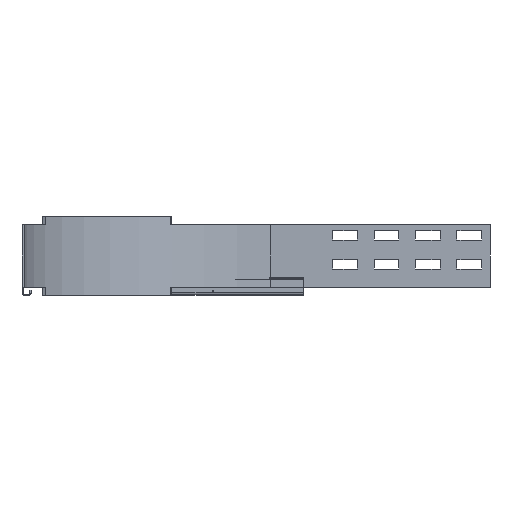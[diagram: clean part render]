
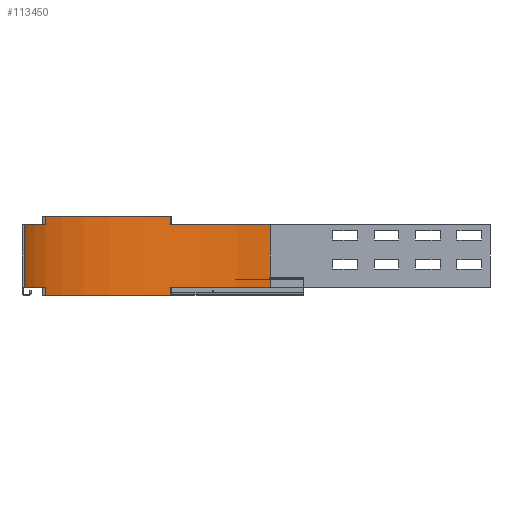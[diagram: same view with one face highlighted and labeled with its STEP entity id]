
A CAD part, left-side view. The second image highlights one B-rep face of the part: STEP entity #113450.
In plain terms, the highlighted cylindrical face has radius 297 mm (diameter 594 mm), a partial arc.
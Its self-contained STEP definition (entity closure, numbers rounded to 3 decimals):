
#90880=CARTESIAN_POINT('',(423.54,-135.435,-50.));
#90890=VERTEX_POINT('',#90880);
#90920=CARTESIAN_POINT('',(247.84,-374.89,-50.));
#90930=DIRECTION('',(0.,0.,1.));
#90940=DIRECTION('',(0.592,0.806,0.));
#90950=AXIS2_PLACEMENT_3D('',#90920,#90930,#90940);
#90960=CIRCLE('',#90950,297.);
#90970=CARTESIAN_POINT('',(214.908,-79.722,-50.));
#90980=VERTEX_POINT('',#90970);
#90990=EDGE_CURVE('',#90890,#90980,#90960,.T.);
#92960=CARTESIAN_POINT('',(504.924,-226.173,-60.));
#92970=VERTEX_POINT('',#92960);
#93020=CARTESIAN_POINT('',(247.84,-374.89,-60.));
#93030=DIRECTION('',(0.,0.,-1.));
#93040=DIRECTION('',(0.592,0.806,0.));
#93050=AXIS2_PLACEMENT_3D('',#93020,#93030,#93040);
#93060=CIRCLE('',#93050,297.);
#93070=CARTESIAN_POINT('',(423.54,-135.435,-60.));
#93080=VERTEX_POINT('',#93070);
#93090=EDGE_CURVE('',#93080,#92970,#93060,.T.);
#93500=CARTESIAN_POINT('',(247.84,-374.89,-145.));
#93510=DIRECTION('',(0.,0.,1.));
#93520=DIRECTION('',(0.592,0.806,0.));
#93530=AXIS2_PLACEMENT_3D('',#93500,#93510,#93520);
#93540=CIRCLE('',#93530,297.);
#93550=CARTESIAN_POINT('',(423.54,-135.435,-145.));
#93560=VERTEX_POINT('',#93550);
#93570=CARTESIAN_POINT('',(214.908,-79.722,-145.));
#93580=VERTEX_POINT('',#93570);
#93590=EDGE_CURVE('',#93560,#93580,#93540,.T.);
#94140=CARTESIAN_POINT('',(99.123,-117.806,-135.));
#94150=VERTEX_POINT('',#94140);
#94180=CARTESIAN_POINT('',(247.84,-374.89,-135.));
#94190=DIRECTION('',(0.,0.,1.));
#94200=DIRECTION('',(-0.111,0.994,0.));
#94210=AXIS2_PLACEMENT_3D('',#94180,#94190,#94200);
#94220=CIRCLE('',#94210,297.);
#94230=CARTESIAN_POINT('',(214.908,-79.722,-135.));
#94240=VERTEX_POINT('',#94230);
#94250=EDGE_CURVE('',#94240,#94150,#94220,.T.);
#101170=CARTESIAN_POINT('',(99.123,-117.806,-60.));
#101180=VERTEX_POINT('',#101170);
#101330=CARTESIAN_POINT('',(214.908,-79.722,-60.));
#101340=VERTEX_POINT('',#101330);
#101370=CARTESIAN_POINT('',(247.84,-374.89,-60.));
#101380=DIRECTION('',(0.,0.,-1.));
#101390=DIRECTION('',(-0.501,0.866,0.));
#101400=AXIS2_PLACEMENT_3D('',#101370,#101380,#101390);
#101410=CIRCLE('',#101400,297.);
#101420=EDGE_CURVE('',#101180,#101340,#101410,.T.);
#104200=CARTESIAN_POINT('',(504.924,-226.173,-135.));
#104210=VERTEX_POINT('',#104200);
#104240=CARTESIAN_POINT('',(504.924,-226.173,0.));
#104250=DIRECTION('',(0.,0.,1.));
#104260=VECTOR('',#104250,1.);
#104270=LINE('',#104240,#104260);
#104280=EDGE_CURVE('',#104210,#92970,#104270,.T.);
#110570=CARTESIAN_POINT('',(423.54,-135.435,-50.));
#110580=DIRECTION('',(0.,0.,-1.));
#110590=VECTOR('',#110580,1.);
#110600=LINE('',#110570,#110590);
#110610=EDGE_CURVE('',#90890,#93080,#110600,.T.);
#110740=CARTESIAN_POINT('',(214.908,-79.722,-135.));
#110750=DIRECTION('',(0.,0.,-1.));
#110760=VECTOR('',#110750,1.);
#110770=LINE('',#110740,#110760);
#110780=EDGE_CURVE('',#94240,#93580,#110770,.T.);
#110910=CARTESIAN_POINT('',(214.908,-79.722,-50.));
#110920=DIRECTION('',(0.,0.,-1.));
#110930=VECTOR('',#110920,1.);
#110940=LINE('',#110910,#110930);
#110950=EDGE_CURVE('',#90980,#101340,#110940,.T.);
#112170=CARTESIAN_POINT('',(99.123,-117.806,0.));
#112180=DIRECTION('',(0.,0.,-1.));
#112190=VECTOR('',#112180,1.);
#112200=LINE('',#112170,#112190);
#112210=EDGE_CURVE('',#101180,#94150,#112200,.T.);
#113130=CARTESIAN_POINT('',(247.84,-374.89,-60.));
#113140=DIRECTION('',(0.,0.,1.));
#113150=DIRECTION('',(1.,0.,0.));
#113160=AXIS2_PLACEMENT_3D('',#113130,#113140,#113150);
#113170=CYLINDRICAL_SURFACE('',#113160,297.);
#113180=ORIENTED_EDGE('',*,*,#94250,.F.);
#113190=ORIENTED_EDGE('',*,*,#112210,.T.);
#113200=ORIENTED_EDGE('',*,*,#101420,.F.);
#113210=ORIENTED_EDGE('',*,*,#110950,.T.);
#113220=ORIENTED_EDGE('',*,*,#90990,.T.);
#113230=ORIENTED_EDGE('',*,*,#110610,.F.);
#113240=ORIENTED_EDGE('',*,*,#93090,.F.);
#113250=ORIENTED_EDGE('',*,*,#104280,.T.);
#113260=CARTESIAN_POINT('',(247.84,-374.89,-135.));
#113270=DIRECTION('',(0.,0.,1.));
#113280=DIRECTION('',(0.866,0.501,0.));
#113290=AXIS2_PLACEMENT_3D('',#113260,#113270,#113280);
#113300=CIRCLE('',#113290,297.);
#113310=CARTESIAN_POINT('',(423.54,-135.435,-135.));
#113320=VERTEX_POINT('',#113310);
#113330=EDGE_CURVE('',#104210,#113320,#113300,.T.);
#113340=ORIENTED_EDGE('',*,*,#113330,.F.);
#113350=CARTESIAN_POINT('',(423.54,-135.435,-135.));
#113360=DIRECTION('',(0.,0.,-1.));
#113370=VECTOR('',#113360,1.);
#113380=LINE('',#113350,#113370);
#113390=EDGE_CURVE('',#113320,#93560,#113380,.T.);
#113400=ORIENTED_EDGE('',*,*,#113390,.F.);
#113410=ORIENTED_EDGE('',*,*,#93590,.F.);
#113420=ORIENTED_EDGE('',*,*,#110780,.T.);
#113430=EDGE_LOOP('',(#113420,#113410,#113400,#113340,#113250,#113240,
#113230,#113220,#113210,#113200,#113190,#113180));
#113440=FACE_OUTER_BOUND('',#113430,.T.);
#113450=ADVANCED_FACE('',(#113440),#113170,.F.);
